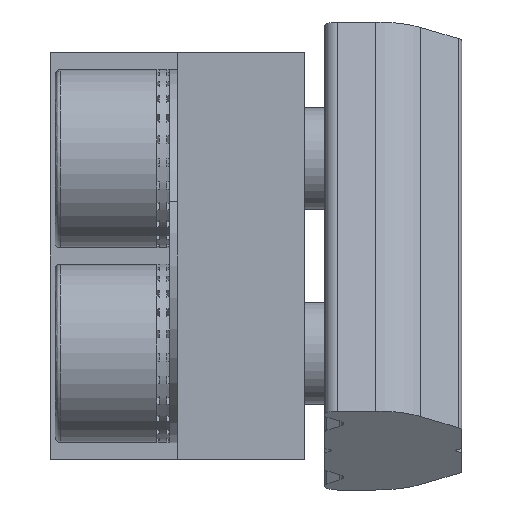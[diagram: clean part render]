
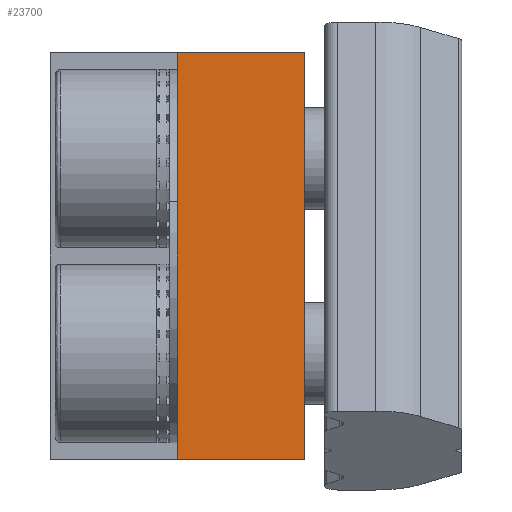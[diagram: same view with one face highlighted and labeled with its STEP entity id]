
A CAD part, front view. The second image highlights one B-rep face of the part: STEP entity #23700.
In plain terms, the highlighted planar face has unit normal (0, -1, 0).
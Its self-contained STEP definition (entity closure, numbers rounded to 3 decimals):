
#148 = DIRECTION ( 'NONE',  ( -1., 0., 0. ) ) ;
#478 = CARTESIAN_POINT ( 'NONE',  ( 36.101, 11.953, 8. ) ) ;
#734 = VECTOR ( 'NONE', #19623, 1000. ) ;
#4746 = CARTESIAN_POINT ( 'NONE',  ( 33.601, 11.953, -8. ) ) ;
#6637 = DIRECTION ( 'NONE',  ( 1., 0., 0. ) ) ;
#6640 = VERTEX_POINT ( 'NONE', #7886 ) ;
#7102 = EDGE_CURVE ( 'NONE', #24780, #17493, #17682, .T. ) ;
#7855 = LINE ( 'NONE', #9388, #21919 ) ;
#7886 = CARTESIAN_POINT ( 'NONE',  ( 33.601, 11.953, -8. ) ) ;
#7921 = CARTESIAN_POINT ( 'NONE',  ( 38.601, 11.953, -8. ) ) ;
#8002 = EDGE_CURVE ( 'NONE', #15324, #6640, #7855, .T. ) ;
#8486 = FACE_OUTER_BOUND ( 'NONE', #20930, .T. ) ;
#9388 = CARTESIAN_POINT ( 'NONE',  ( 33.601, 11.953, 0. ) ) ;
#9596 = CARTESIAN_POINT ( 'NONE',  ( 33.601, 11.953, -8. ) ) ;
#10270 = EDGE_CURVE ( 'NONE', #17493, #15324, #10342, .T. ) ;
#10342 = LINE ( 'NONE', #478, #734 ) ;
#11341 = DIRECTION ( 'NONE',  ( 0., 0., -1. ) ) ;
#12426 = ORIENTED_EDGE ( 'NONE', *, *, #7102, .T. ) ;
#12580 = VECTOR ( 'NONE', #24676, 1000. ) ;
#13731 = LINE ( 'NONE', #9596, #18215 ) ;
#14013 = CARTESIAN_POINT ( 'NONE',  ( 33.601, 11.953, 8. ) ) ;
#14441 = CARTESIAN_POINT ( 'NONE',  ( 38.601, 11.953, 8. ) ) ;
#15324 = VERTEX_POINT ( 'NONE', #14013 ) ;
#16153 = PLANE ( 'NONE',  #16211 ) ;
#16211 = AXIS2_PLACEMENT_3D ( 'NONE', #4746, #18162, #6637 ) ;
#16996 = CARTESIAN_POINT ( 'NONE',  ( 38.601, 11.953, 0. ) ) ;
#17493 = VERTEX_POINT ( 'NONE', #14441 ) ;
#17520 = ORIENTED_EDGE ( 'NONE', *, *, #10270, .T. ) ;
#17682 = LINE ( 'NONE', #16996, #12580 ) ;
#18162 = DIRECTION ( 'NONE',  ( 0., -1., 0. ) ) ;
#18215 = VECTOR ( 'NONE', #148, 1000. ) ;
#18860 = ORIENTED_EDGE ( 'NONE', *, *, #8002, .T. ) ;
#19623 = DIRECTION ( 'NONE',  ( -1., 0., 0. ) ) ;
#19941 = ORIENTED_EDGE ( 'NONE', *, *, #22515, .F. ) ;
#20930 = EDGE_LOOP ( 'NONE', ( #12426, #17520, #18860, #19941 ) ) ;
#21919 = VECTOR ( 'NONE', #11341, 1000. ) ;
#22515 = EDGE_CURVE ( 'NONE', #24780, #6640, #13731, .T. ) ;
#23700 = ADVANCED_FACE ( 'NONE', ( #8486 ), #16153, .T. ) ;
#24676 = DIRECTION ( 'NONE',  ( 0., 0., 1. ) ) ;
#24780 = VERTEX_POINT ( 'NONE', #7921 ) ;
